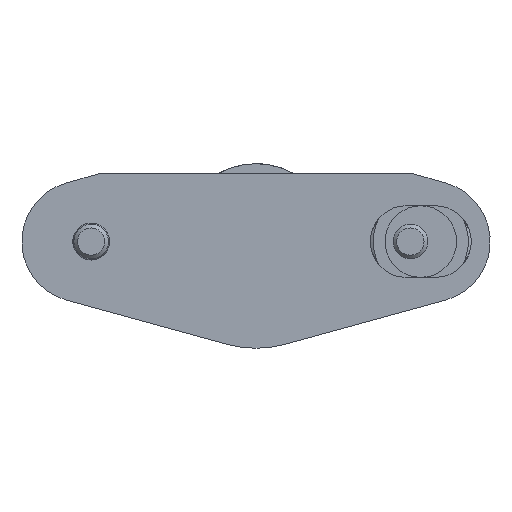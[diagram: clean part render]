
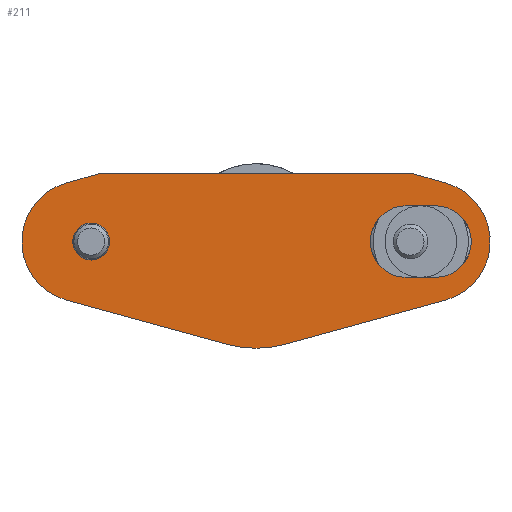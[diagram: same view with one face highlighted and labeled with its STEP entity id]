
A CAD part, front view. The second image highlights one B-rep face of the part: STEP entity #211.
In plain terms, the highlighted planar face has unit normal (0, -1, 0).
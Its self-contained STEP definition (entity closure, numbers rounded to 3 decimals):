
#211 = ADVANCED_FACE( '', ( #314, #315, #316 ), #317, .F. );
#314 = FACE_BOUND( '', #556, .T. );
#315 = FACE_BOUND( '', #557, .T. );
#316 = FACE_OUTER_BOUND( '', #558, .T. );
#317 = PLANE( '', #559 );
#556 = EDGE_LOOP( '', ( #790 ) );
#557 = EDGE_LOOP( '', ( #791, #792, #793, #794 ) );
#558 = EDGE_LOOP( '', ( #795, #796, #797, #798, #799, #800, #801, #802 ) );
#559 = AXIS2_PLACEMENT_3D( '', #803, #804, #805 );
#790 = ORIENTED_EDGE( '', *, *, #1420, .T. );
#791 = ORIENTED_EDGE( '', *, *, #1421, .T. );
#792 = ORIENTED_EDGE( '', *, *, #1422, .T. );
#793 = ORIENTED_EDGE( '', *, *, #1423, .T. );
#794 = ORIENTED_EDGE( '', *, *, #1424, .T. );
#795 = ORIENTED_EDGE( '', *, *, #1425, .F. );
#796 = ORIENTED_EDGE( '', *, *, #1426, .F. );
#797 = ORIENTED_EDGE( '', *, *, #1427, .F. );
#798 = ORIENTED_EDGE( '', *, *, #1428, .F. );
#799 = ORIENTED_EDGE( '', *, *, #1429, .F. );
#800 = ORIENTED_EDGE( '', *, *, #1430, .F. );
#801 = ORIENTED_EDGE( '', *, *, #1431, .F. );
#802 = ORIENTED_EDGE( '', *, *, #1432, .F. );
#803 = CARTESIAN_POINT( '', ( -20., 0., 0. ) );
#804 = DIRECTION( '', ( 0., 1., 0. ) );
#805 = DIRECTION( '', ( 0., 0., 1. ) );
#1420 = EDGE_CURVE( '', #1636, #1636, #1637, .T. );
#1421 = EDGE_CURVE( '', #1638, #1639, #1640, .T. );
#1422 = EDGE_CURVE( '', #1639, #1641, #1642, .T. );
#1423 = EDGE_CURVE( '', #1641, #1643, #1644, .T. );
#1424 = EDGE_CURVE( '', #1643, #1638, #1645, .T. );
#1425 = EDGE_CURVE( '', #1646, #1647, #1648, .T. );
#1426 = EDGE_CURVE( '', #1649, #1646, #1650, .T. );
#1427 = EDGE_CURVE( '', #1651, #1649, #1652, .T. );
#1428 = EDGE_CURVE( '', #1653, #1651, #1654, .T. );
#1429 = EDGE_CURVE( '', #1655, #1653, #1656, .T. );
#1430 = EDGE_CURVE( '', #1657, #1655, #1658, .T. );
#1431 = EDGE_CURVE( '', #1659, #1657, #1660, .T. );
#1432 = EDGE_CURVE( '', #1647, #1659, #1661, .T. );
#1636 = VERTEX_POINT( '', #1974 );
#1637 = CIRCLE( '', #1975, 2.125 );
#1638 = VERTEX_POINT( '', #1976 );
#1639 = VERTEX_POINT( '', #1977 );
#1640 = LINE( '', #1978, #1979 );
#1641 = VERTEX_POINT( '', #1980 );
#1642 = CIRCLE( '', #1981, 4.125 );
#1643 = VERTEX_POINT( '', #1982 );
#1644 = LINE( '', #1983, #1984 );
#1645 = CIRCLE( '', #1985, 4.125 );
#1646 = VERTEX_POINT( '', #1986 );
#1647 = VERTEX_POINT( '', #1987 );
#1648 = LINE( '', #1988, #1989 );
#1649 = VERTEX_POINT( '', #1990 );
#1650 = CIRCLE( '', #1991, 12.3 );
#1651 = VERTEX_POINT( '', #1992 );
#1652 = LINE( '', #1993, #1994 );
#1653 = VERTEX_POINT( '', #1995 );
#1654 = CIRCLE( '', #1996, 7. );
#1655 = VERTEX_POINT( '', #1997 );
#1656 = LINE( '', #1998, #1999 );
#1657 = VERTEX_POINT( '', #2000 );
#1658 = LINE( '', #2001, #2002 );
#1659 = VERTEX_POINT( '', #2003 );
#1660 = LINE( '', #2004, #2005 );
#1661 = CIRCLE( '', #2006, 7. );
#1974 = CARTESIAN_POINT( '', ( -16.875, 0., 0. ) );
#1975 = AXIS2_PLACEMENT_3D( '', #2524, #2525, #2526 );
#1976 = CARTESIAN_POINT( '', ( 20.7, 0., -4.125 ) );
#1977 = CARTESIAN_POINT( '', ( 17.3, 0., -4.125 ) );
#1978 = CARTESIAN_POINT( '', ( 20.7, 0., -4.125 ) );
#1979 = VECTOR( '', #2527, 1000. );
#1980 = CARTESIAN_POINT( '', ( 17.3, 0., 4.125 ) );
#1981 = AXIS2_PLACEMENT_3D( '', #2528, #2529, #2530 );
#1982 = CARTESIAN_POINT( '', ( 20.7, 0., 4.125 ) );
#1983 = CARTESIAN_POINT( '', ( 17.3, 0., 4.125 ) );
#1984 = VECTOR( '', #2531, 1000. );
#1985 = AXIS2_PLACEMENT_3D( '', #2532, #2533, #2534 );
#1986 = CARTESIAN_POINT( '', ( -3.26, 0., -11.86 ) );
#1987 = CARTESIAN_POINT( '', ( -21.855, 0., -6.75 ) );
#1988 = CARTESIAN_POINT( '', ( -3.26, 0., -11.86 ) );
#1989 = VECTOR( '', #2535, 1000. );
#1990 = CARTESIAN_POINT( '', ( 3.26, 0., -11.86 ) );
#1991 = AXIS2_PLACEMENT_3D( '', #2536, #2537, #2538 );
#1992 = CARTESIAN_POINT( '', ( 21.855, 0., -6.75 ) );
#1993 = CARTESIAN_POINT( '', ( 21.855, 0., -6.75 ) );
#1994 = VECTOR( '', #2539, 1000. );
#1995 = CARTESIAN_POINT( '', ( 21.929, 0., 6.729 ) );
#1996 = AXIS2_PLACEMENT_3D( '', #2540, #2541, #2542 );
#1997 = CARTESIAN_POINT( '', ( 18.194, 0., 7.8 ) );
#1998 = CARTESIAN_POINT( '', ( 18.194, 0., 7.8 ) );
#1999 = VECTOR( '', #2543, 1000. );
#2000 = CARTESIAN_POINT( '', ( -18.194, 0., 7.8 ) );
#2001 = CARTESIAN_POINT( '', ( -18.194, 0., 7.8 ) );
#2002 = VECTOR( '', #2544, 1000. );
#2003 = CARTESIAN_POINT( '', ( -21.929, 0., 6.729 ) );
#2004 = CARTESIAN_POINT( '', ( -21.929, 0., 6.729 ) );
#2005 = VECTOR( '', #2545, 1000. );
#2006 = AXIS2_PLACEMENT_3D( '', #2546, #2547, #2548 );
#2524 = CARTESIAN_POINT( '', ( -19., 0., 0. ) );
#2525 = DIRECTION( '', ( 0., 1., 0. ) );
#2526 = DIRECTION( '', ( 1., 0., 0. ) );
#2527 = DIRECTION( '', ( -1., 0., 0. ) );
#2528 = CARTESIAN_POINT( '', ( 17.3, 0., 0. ) );
#2529 = DIRECTION( '', ( 0., 1., 0. ) );
#2530 = DIRECTION( '', ( 1., 0., 0. ) );
#2531 = DIRECTION( '', ( 1., 0., 0. ) );
#2532 = CARTESIAN_POINT( '', ( 20.7, 0., 0. ) );
#2533 = DIRECTION( '', ( 0., 1., 0. ) );
#2534 = DIRECTION( '', ( 1., 0., 0. ) );
#2535 = DIRECTION( '', ( -0.964, 0., 0.265 ) );
#2536 = CARTESIAN_POINT( '', ( 0., 0., 0. ) );
#2537 = DIRECTION( '', ( 0., 1., 0. ) );
#2538 = DIRECTION( '', ( 1., 0., 0. ) );
#2539 = DIRECTION( '', ( -0.964, 0., -0.265 ) );
#2540 = CARTESIAN_POINT( '', ( 20., 0., 0. ) );
#2541 = DIRECTION( '', ( 0., 1., 0. ) );
#2542 = DIRECTION( '', ( 1., 0., 0. ) );
#2543 = DIRECTION( '', ( 0.961, 0., -0.276 ) );
#2544 = DIRECTION( '', ( 1., 0., 0. ) );
#2545 = DIRECTION( '', ( 0.961, 0., 0.276 ) );
#2546 = CARTESIAN_POINT( '', ( -20., 0., 0. ) );
#2547 = DIRECTION( '', ( 0., 1., 0. ) );
#2548 = DIRECTION( '', ( 1., 0., 0. ) );
